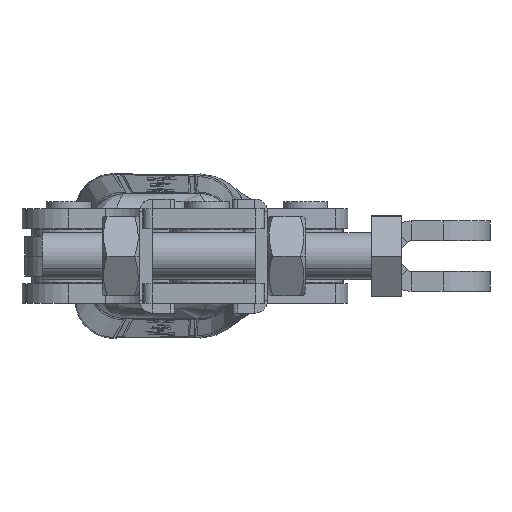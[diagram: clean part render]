
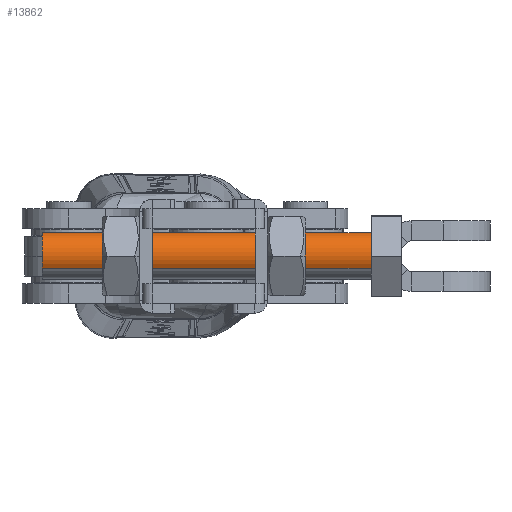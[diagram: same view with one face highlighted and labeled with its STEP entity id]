
A CAD part, left-side view. The second image highlights one B-rep face of the part: STEP entity #13862.
In plain terms, the highlighted cylindrical face has radius 5 mm (diameter 10 mm), a partial arc.
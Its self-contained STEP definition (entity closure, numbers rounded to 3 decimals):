
#589 = VERTEX_POINT ( 'NONE', #10300 ) ;
#824 = CARTESIAN_POINT ( 'NONE',  ( 0., -70., 5. ) ) ;
#1067 = EDGE_CURVE ( 'NONE', #13465, #589, #3206, .T. ) ;
#2961 = DIRECTION ( 'NONE',  ( 0., -1., 0. ) ) ;
#3206 = LINE ( 'NONE', #22535, #12425 ) ;
#3415 = CIRCLE ( 'NONE', #9721, 5. ) ;
#5220 = VECTOR ( 'NONE', #11995, 1000. ) ;
#5406 = DIRECTION ( 'NONE',  ( 0., -1., 0. ) ) ;
#5776 = LINE ( 'NONE', #824, #5220 ) ;
#6314 = AXIS2_PLACEMENT_3D ( 'NONE', #14015, #2961, #15894 ) ;
#7678 = ORIENTED_EDGE ( 'NONE', *, *, #1067, .F. ) ;
#8410 = VERTEX_POINT ( 'NONE', #12887 ) ;
#8922 = DIRECTION ( 'NONE',  ( 0., 0., 1. ) ) ;
#9721 = AXIS2_PLACEMENT_3D ( 'NONE', #16453, #5406, #18308 ) ;
#10300 = CARTESIAN_POINT ( 'NONE',  ( 0., 0., -5. ) ) ;
#11313 = EDGE_LOOP ( 'NONE', ( #7678, #19194, #16902, #16823 ) ) ;
#11995 = DIRECTION ( 'NONE',  ( 0., 1., 0. ) ) ;
#12033 = EDGE_CURVE ( 'NONE', #17910, #8410, #5776, .T. ) ;
#12061 = FACE_OUTER_BOUND ( 'NONE', #11313, .T. ) ;
#12101 = EDGE_CURVE ( 'NONE', #17910, #13465, #18773, .T. ) ;
#12192 = AXIS2_PLACEMENT_3D ( 'NONE', #14433, #16377, #8922 ) ;
#12425 = VECTOR ( 'NONE', #22622, 1000. ) ;
#12887 = CARTESIAN_POINT ( 'NONE',  ( 0., 0., 5. ) ) ;
#13452 = CARTESIAN_POINT ( 'NONE',  ( 0., -70., -5. ) ) ;
#13465 = VERTEX_POINT ( 'NONE', #13452 ) ;
#13862 = ADVANCED_FACE ( 'NONE', ( #12061 ), #21311, .T. ) ;
#13875 = EDGE_CURVE ( 'NONE', #8410, #589, #3415, .T. ) ;
#14015 = CARTESIAN_POINT ( 'NONE',  ( 0., -70., 0. ) ) ;
#14433 = CARTESIAN_POINT ( 'NONE',  ( 0., -70., 0. ) ) ;
#15894 = DIRECTION ( 'NONE',  ( 0., 0., -1. ) ) ;
#16377 = DIRECTION ( 'NONE',  ( 0., 1., 0. ) ) ;
#16453 = CARTESIAN_POINT ( 'NONE',  ( 0., 0., 0. ) ) ;
#16823 = ORIENTED_EDGE ( 'NONE', *, *, #13875, .T. ) ;
#16902 = ORIENTED_EDGE ( 'NONE', *, *, #12033, .T. ) ;
#17910 = VERTEX_POINT ( 'NONE', #22829 ) ;
#18308 = DIRECTION ( 'NONE',  ( 0., 0., 1. ) ) ;
#18773 = CIRCLE ( 'NONE', #6314, 5. ) ;
#19194 = ORIENTED_EDGE ( 'NONE', *, *, #12101, .F. ) ;
#21311 = CYLINDRICAL_SURFACE ( 'NONE', #12192, 5. ) ;
#22535 = CARTESIAN_POINT ( 'NONE',  ( 0., -70., -5. ) ) ;
#22622 = DIRECTION ( 'NONE',  ( 0., 1., 0. ) ) ;
#22829 = CARTESIAN_POINT ( 'NONE',  ( 0., -70., 5. ) ) ;
